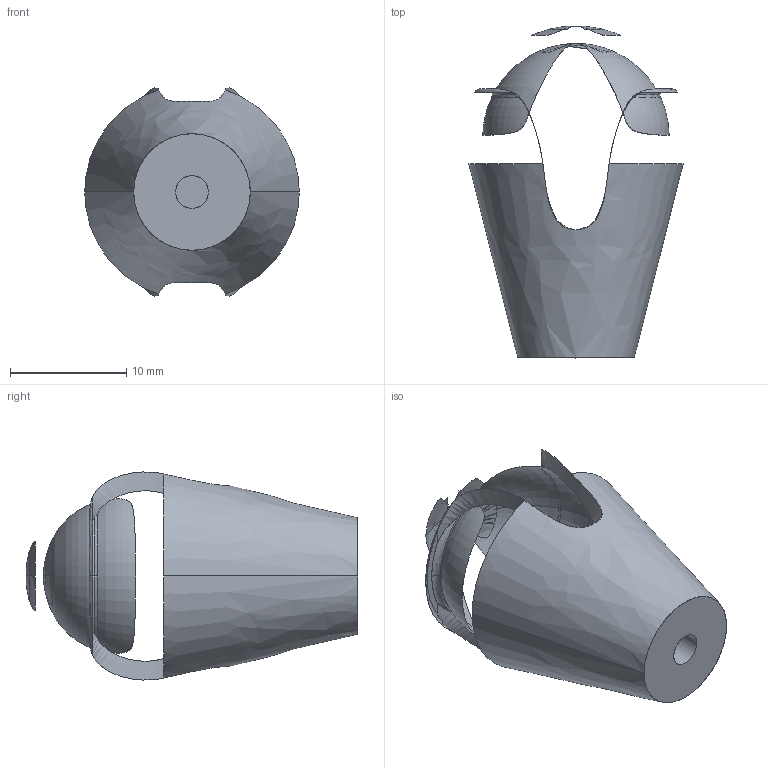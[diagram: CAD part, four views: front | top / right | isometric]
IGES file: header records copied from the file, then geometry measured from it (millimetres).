
Start section: SolidWorks IGES file using analytic representation for surfaces
Global section: file name: C:\Users\Colin\Dropbox\personal projects\Seeedstudio 2WD Robot\Production CAD\BallWheelCaster_15mmBallv4_long.IGS; native system: SolidWorks 2012; preprocessor: SolidWorks 2012; author: Colin; date: 120829.084106; units: millimetre
Bounding box: 18.42 x 28.5 x 17.87 mm (x, y, z)
Surface area: 1380.1 mm2 (no closed solid volume)
Topology: 0 solids, 0 shells, 33 faces, 706 edges, 706 vertices
Faces by surface type: bspline 17, revolution 16
